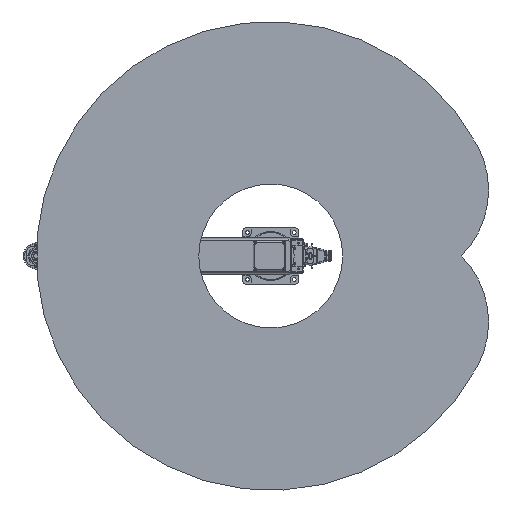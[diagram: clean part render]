
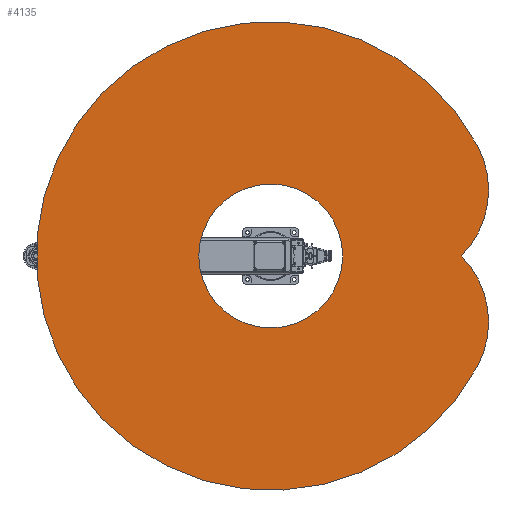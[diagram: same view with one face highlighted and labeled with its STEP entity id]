
A CAD part, front view. The second image highlights one B-rep face of the part: STEP entity #4135.
In plain terms, the highlighted planar face has unit normal (0, -1, 0).
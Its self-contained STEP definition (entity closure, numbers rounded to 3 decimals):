
#4135 = ADVANCED_FACE( '', ( #10208, #10209 ), #10210, .F. );
#10208 = FACE_BOUND( '', #18991, .T. );
#10209 = FACE_OUTER_BOUND( '', #18992, .T. );
#10210 = PLANE( '', #18993 );
#18991 = EDGE_LOOP( '', ( #31922 ) );
#18992 = EDGE_LOOP( '', ( #31923, #31924, #31925 ) );
#18993 = AXIS2_PLACEMENT_3D( '', #31926, #31927, #31928 );
#31922 = ORIENTED_EDGE( '', *, *, #48081, .T. );
#31923 = ORIENTED_EDGE( '', *, *, #50052, .F. );
#31924 = ORIENTED_EDGE( '', *, *, #50053, .F. );
#31925 = ORIENTED_EDGE( '', *, *, #48370, .F. );
#31926 = CARTESIAN_POINT( '', ( 140.842, 0., 264.885 ) );
#31927 = DIRECTION( '', ( 0., 1., 0. ) );
#31928 = DIRECTION( '', ( 0., 0., 1. ) );
#48081 = EDGE_CURVE( '', #57158, #57158, #57159, .T. );
#48370 = EDGE_CURVE( '', #57641, #57642, #57643, .T. );
#50052 = EDGE_CURVE( '', #60376, #57641, #60377, .T. );
#50053 = EDGE_CURVE( '', #57642, #60376, #60378, .T. );
#57158 = VERTEX_POINT( '', #70426 );
#57159 = CIRCLE( '', #70427, 307. );
#57641 = VERTEX_POINT( '', #71277 );
#57642 = VERTEX_POINT( '', #71278 );
#57643 = CIRCLE( '', #71279, 1000. );
#60376 = VERTEX_POINT( '', #76585 );
#60377 = CIRCLE( '', #76586, 400. );
#60378 = CIRCLE( '', #76587, 400. );
#70426 = CARTESIAN_POINT( '', ( 307., 0., 0. ) );
#70427 = AXIS2_PLACEMENT_3D( '', #88250, #88251, #88252 );
#71277 = CARTESIAN_POINT( '', ( 468.809, 0., 883.299 ) );
#71278 = CARTESIAN_POINT( '', ( -468.809, 0., 883.299 ) );
#71279 = AXIS2_PLACEMENT_3D( '', #88594, #88595, #88596 );
#76585 = CARTESIAN_POINT( '', ( 0., 0., 813.767 ) );
#76586 = AXIS2_PLACEMENT_3D( '', #90592, #90593, #90594 );
#76587 = AXIS2_PLACEMENT_3D( '', #90595, #90596, #90597 );
#88250 = CARTESIAN_POINT( '', ( 0., 0., 0. ) );
#88251 = DIRECTION( '', ( 0., 1., 0. ) );
#88252 = DIRECTION( '', ( 1., 0., 0. ) );
#88594 = CARTESIAN_POINT( '', ( 0., 0., 0. ) );
#88595 = DIRECTION( '', ( 0., 1., 0. ) );
#88596 = DIRECTION( '', ( 1., 0., 0. ) );
#90592 = CARTESIAN_POINT( '', ( 281.683, 0., 529.769 ) );
#90593 = DIRECTION( '', ( 0., 1., 0. ) );
#90594 = DIRECTION( '', ( 1., 0., 0. ) );
#90595 = CARTESIAN_POINT( '', ( -281.683, 0., 529.769 ) );
#90596 = DIRECTION( '', ( 0., 1., 0. ) );
#90597 = DIRECTION( '', ( 1., 0., 0. ) );
